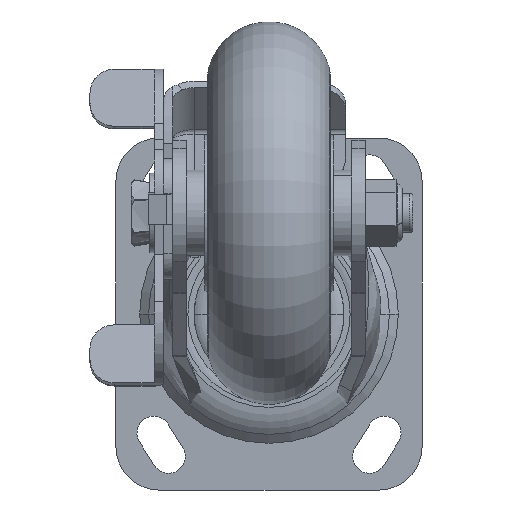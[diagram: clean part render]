
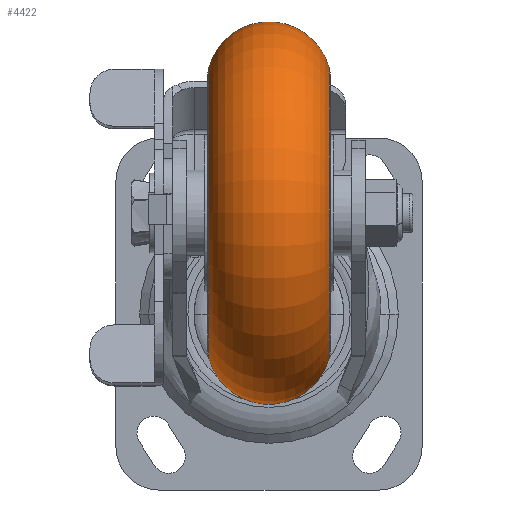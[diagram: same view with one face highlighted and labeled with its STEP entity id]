
A CAD part, front view. The second image highlights one B-rep face of the part: STEP entity #4422.
In plain terms, the highlighted toroidal (fillet/blend) face has major radius 42.13 mm and minor radius 20.37 mm.
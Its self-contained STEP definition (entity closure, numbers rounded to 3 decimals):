
#815 = DIRECTION ( 'NONE',  ( 0., -1., 0. ) ) ;
#2146 = DIRECTION ( 'NONE',  ( 0., 1., 0. ) ) ;
#3196 = DIRECTION ( 'NONE',  ( -1., 0., 0. ) ) ;
#4422 = ADVANCED_FACE ( 'NONE', ( #33714 ), #23759, .T. ) ;
#5452 = ORIENTED_EDGE ( 'NONE', *, *, #43693, .T. ) ;
#6779 = CARTESIAN_POINT ( 'NONE',  ( -19.643, 0., 47.523 ) ) ;
#7355 = CARTESIAN_POINT ( 'NONE',  ( 19.643, 0., 0. ) ) ;
#7577 = AXIS2_PLACEMENT_3D ( 'NONE', #17221, #14075, #24814 ) ;
#10659 = CARTESIAN_POINT ( 'NONE',  ( 0., 0., -42.13 ) ) ;
#11306 = CARTESIAN_POINT ( 'NONE',  ( 0., 0., 42.13 ) ) ;
#14004 = ORIENTED_EDGE ( 'NONE', *, *, #27161, .T. ) ;
#14075 = DIRECTION ( 'NONE',  ( -1., 0., 0. ) ) ;
#14343 = EDGE_CURVE ( 'NONE', #29898, #41868, #28583, .T. ) ;
#17221 = CARTESIAN_POINT ( 'NONE',  ( -19.643, 0., 0. ) ) ;
#17733 = EDGE_LOOP ( 'NONE', ( #44658, #5452, #14004, #32218 ) ) ;
#20127 = AXIS2_PLACEMENT_3D ( 'NONE', #10659, #2146, #43521 ) ;
#21612 = CARTESIAN_POINT ( 'NONE',  ( -19.643, 0., -47.523 ) ) ;
#22220 = DIRECTION ( 'NONE',  ( 0., 0., 1. ) ) ;
#22729 = AXIS2_PLACEMENT_3D ( 'NONE', #11306, #815, #44412 ) ;
#23759 = TOROIDAL_SURFACE ( 'NONE', #42793, 42.13, 20.37 ) ;
#24814 = DIRECTION ( 'NONE',  ( 0., 0., 1. ) ) ;
#25365 = VERTEX_POINT ( 'NONE', #35250 ) ;
#25713 = DIRECTION ( 'NONE',  ( -1., 0., 0. ) ) ;
#26624 = CIRCLE ( 'NONE', #22729, 20.37 ) ;
#27161 = EDGE_CURVE ( 'NONE', #38760, #41868, #26624, .T. ) ;
#28583 = CIRCLE ( 'NONE', #7577, 47.523 ) ;
#29898 = VERTEX_POINT ( 'NONE', #21612 ) ;
#30301 = DIRECTION ( 'NONE',  ( 0., 0., 1. ) ) ;
#32218 = ORIENTED_EDGE ( 'NONE', *, *, #14343, .F. ) ;
#32966 = AXIS2_PLACEMENT_3D ( 'NONE', #7355, #3196, #22220 ) ;
#33714 = FACE_OUTER_BOUND ( 'NONE', #17733, .T. ) ;
#34518 = CIRCLE ( 'NONE', #32966, 47.523 ) ;
#35250 = CARTESIAN_POINT ( 'NONE',  ( 19.643, 0., -47.523 ) ) ;
#38760 = VERTEX_POINT ( 'NONE', #41992 ) ;
#40764 = CARTESIAN_POINT ( 'NONE',  ( 0., 0., 0. ) ) ;
#41868 = VERTEX_POINT ( 'NONE', #6779 ) ;
#41992 = CARTESIAN_POINT ( 'NONE',  ( 19.643, 0., 47.523 ) ) ;
#42793 = AXIS2_PLACEMENT_3D ( 'NONE', #40764, #25713, #30301 ) ;
#43521 = DIRECTION ( 'NONE',  ( 0., 0., 1. ) ) ;
#43693 = EDGE_CURVE ( 'NONE', #25365, #38760, #34518, .T. ) ;
#44412 = DIRECTION ( 'NONE',  ( 0., 0., -1. ) ) ;
#44658 = ORIENTED_EDGE ( 'NONE', *, *, #47477, .F. ) ;
#45764 = CIRCLE ( 'NONE', #20127, 20.37 ) ;
#47477 = EDGE_CURVE ( 'NONE', #25365, #29898, #45764, .T. ) ;
